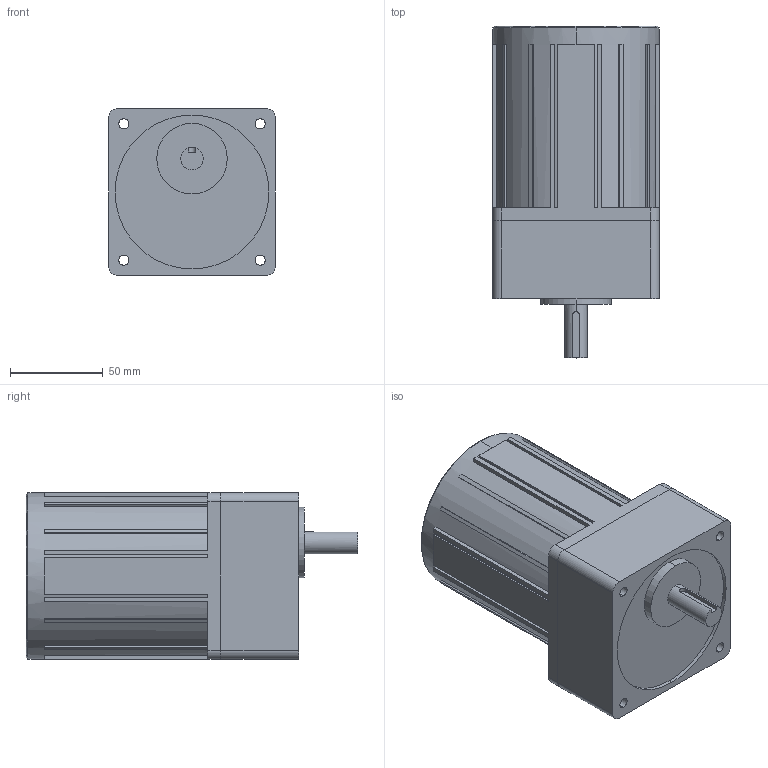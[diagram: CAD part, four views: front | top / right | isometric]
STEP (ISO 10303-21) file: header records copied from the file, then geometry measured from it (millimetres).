
FILE_DESCRIPTION (( 'STEP AP203' ), '1' );
FILE_NAME ('L9HK003B + L9I40PBL.STEP', '2018-09-20T05:32:30', ( '' ), ( '' ), 'SwSTEP 2.0', 'SolidWorks 2017', '' );
FILE_SCHEMA (( 'CONFIG_CONTROL_DESIGN' ));
Length unit declared in the file: millimetre
Products named in the file (1): L9HK003B + L9I40PBL
Bounding box: 90 x 179 x 90 mm (x, y, z)
Volume: 1018418.9 mm3; surface area: 88278.6 mm2
Topology: 2 solids, 2 shells, 149 faces, 406 edges, 268 vertices
Faces by surface type: plane 106, cylinder 41, cone 2
Entity records: 4854 total; most frequent: CARTESIAN_POINT 854, DIRECTION 829, ORIENTED_EDGE 812, EDGE_CURVE 406, VECTOR 279, LINE 279, AXIS2_PLACEMENT_3D 275, VERTEX_POINT 268
